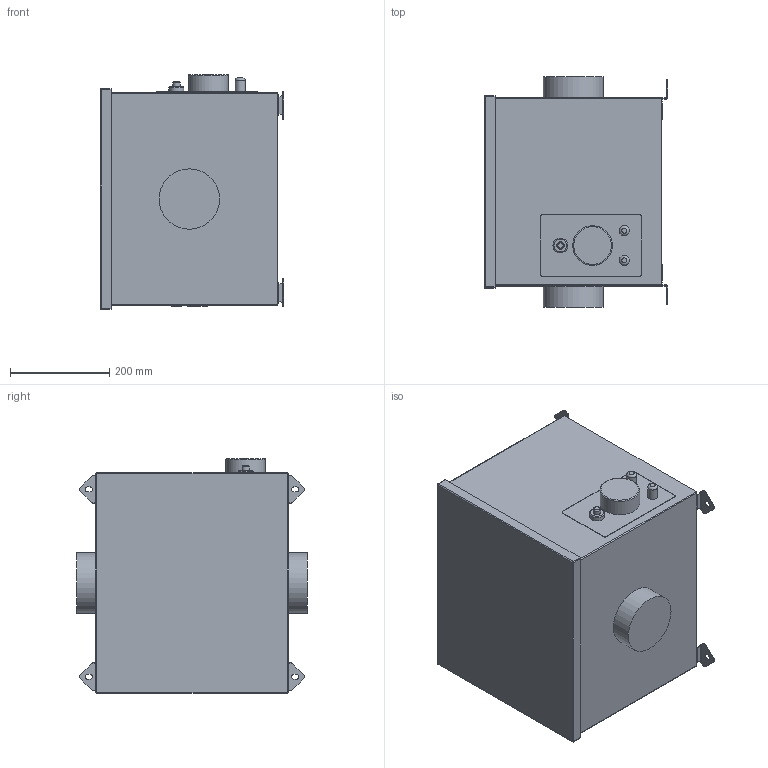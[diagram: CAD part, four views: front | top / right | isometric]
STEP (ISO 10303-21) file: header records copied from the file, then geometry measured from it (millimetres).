
FILE_DESCRIPTION(/* description */ (''),/* implementation_level */ '2;1');
FILE_NAME(/* name */ 'D:\Piotr - Dokumenty\Modele uproszczone\AFB EC\AFB_EC_125\AFB_EC_125.stp',/* time_stamp */ '2021-03-23T13:27:53+01:00',/* author */ ('Piotr.Nowotniak'),/* organization */ (''),/* preprocessor_version */ 'ST-DEVELOPER v18',/* originating_system */ 'Autodesk Inventor 2020',/* authorisation */ '');
FILE_SCHEMA (('AUTOMOTIVE_DESIGN { 1 0 10303 214 3 1 1 }'));
Length unit declared in the file: millimetre
Products named in the file (1): AFB_EC_125
Bounding box: 370.96 x 465.6 x 474.5 mm (x, y, z)
Volume: 60090116.2 mm3; surface area: 991569 mm2
Topology: 1 solids, 1 shells, 813 faces, 2242 edges, 1484 vertices
Faces by surface type: bspline 370, plane 339, cylinder 95, torus 5, sphere 4
Full cylindrical faces by diameter (mm): 15 x1, 20.2 x2, 30 x1, 80 x1, 122 x2
Entity records: 32075 total; most frequent: CARTESIAN_POINT 13421, ORIENTED_EDGE 4484, DIRECTION 2575, EDGE_CURVE 2242, VERTEX_POINT 1484, LINE 1317, VECTOR 1317, EDGE_LOOP 874
